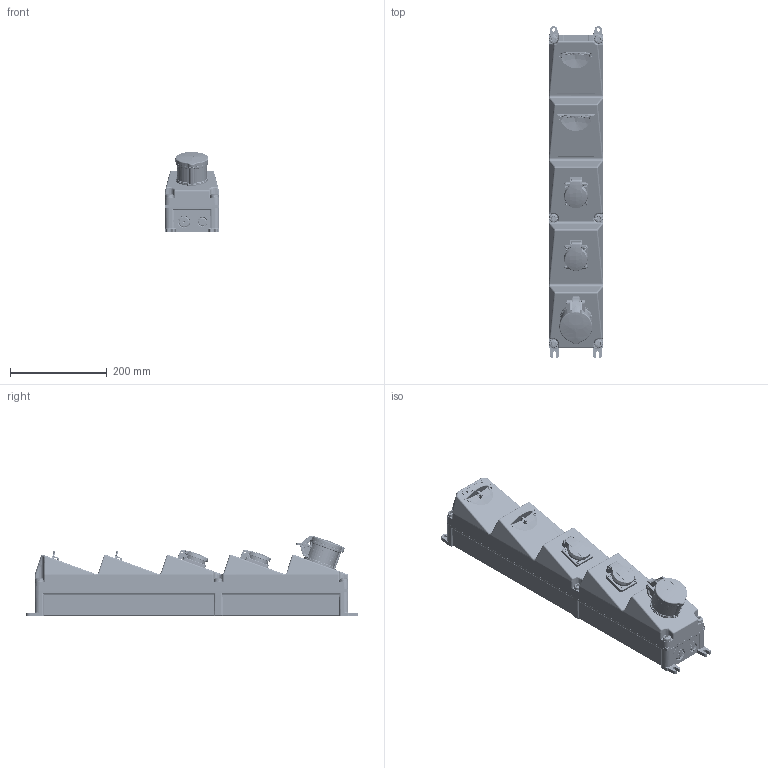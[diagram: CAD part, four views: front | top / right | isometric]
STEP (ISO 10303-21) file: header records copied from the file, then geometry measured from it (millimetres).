
FILE_DESCRIPTION((''),'2;1');
FILE_NAME('960003-2_ASM_1_ASM','2017-11-27T',('kremer'),('MENNEKES'),'PRO/ENGINEER BY PARAMETRIC TECHNOLOGY CORPORATION, 2015440','PRO/ENGINEER BY PARAMETRIC TECHNOLOGY CORPORATION, 2015440','');
FILE_SCHEMA(('AUTOMOTIVE_DESIGN { 1 0 10303 214 1 1 1 1 }'));
Products named in the file (12): S_SW_O_GRAU_AF0_1; MANIFOLD_SOLID_BREP_191915; MANIFOLD_SOLID_BREP_280278; MANIFOLD_SOLID_BREP_280615; MANIFOLD_SOLID_BREP_283094; FI_4POL_4TE_1_ASM; LS_3POL_3TE_1; LS_1POL_1TE_1; S_FEN4_44_GRAU_1; RAPIDO_16_5_44_61_ROT_1; 4LOCH_SCHUKO_44_BLAU_1; 960003-2_ASM_1_ASM
Assembly tree (13 placements, depth 3):
  960003-2_ASM_1_ASM
    S_SW_O_GRAU_AF0_1
    FI_4POL_4TE_1_ASM
      MANIFOLD_SOLID_BREP_191915
      MANIFOLD_SOLID_BREP_280278
      MANIFOLD_SOLID_BREP_280615
      MANIFOLD_SOLID_BREP_283094
    LS_3POL_3TE_1
    LS_1POL_1TE_1
    S_FEN4_44_GRAU_1  x2
    RAPIDO_16_5_44_61_ROT_1
    4LOCH_SCHUKO_44_BLAU_1  x2
Bounding box: 113.06 x 688.04 x 167.83 mm (x, y, z)
Volume: 8170628 mm3; surface area: 643916.8 mm2
Topology: 12 solids, 12 shells, 8857 faces, 24105 edges, 15268 vertices
Faces by surface type: plane 3681, cylinder 2699, bspline 974, torus 902, cone 312, sphere 195, extrusion 94
Entity records: 400508 total; most frequent: CARTESIAN_POINT 106360, ORIENTED_EDGE 43722, DIRECTION 38281, PRESENTATION_STYLE_ASSIGNMENT 23143, EDGE_CURVE 21861, STYLED_ITEM 19485, CURVE_STYLE 18206, VERTEX_POINT 13940
